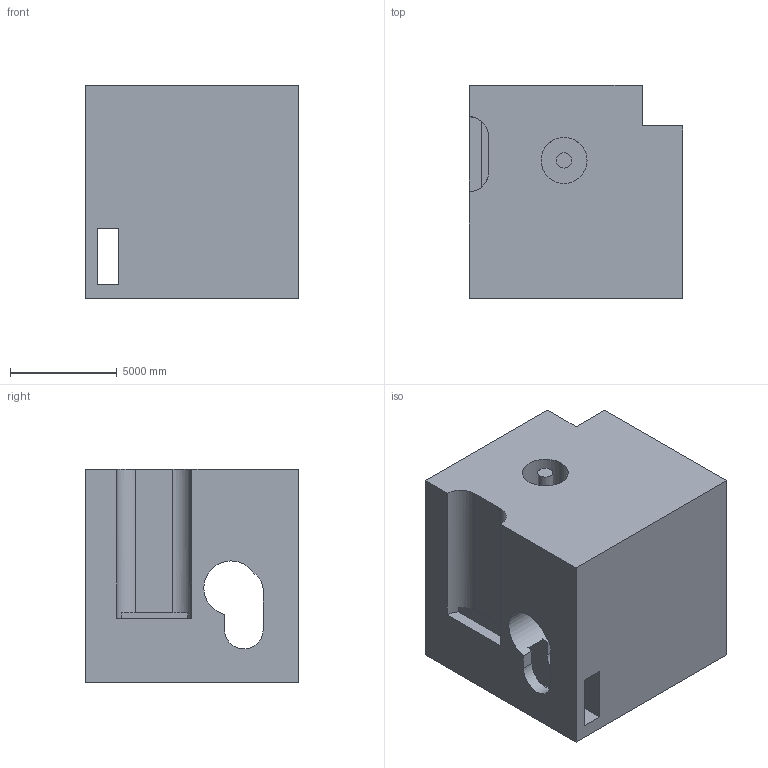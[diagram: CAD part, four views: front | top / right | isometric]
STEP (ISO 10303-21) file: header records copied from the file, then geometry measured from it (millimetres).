
FILE_DESCRIPTION (( 'STEP AP203' ), '1' );
FILE_NAME ('306.STEP', '2022-09-07T12:45:16', ( 'user' ), ( '' ), 'SwSTEP 2.0', 'SolidWorks 2021', '' );
FILE_SCHEMA (( 'CONFIG_CONTROL_DESIGN' ));
Length unit declared in the file: centimetre
Products named in the file (1): 306
Bounding box: 10000 x 10000 x 10000 mm (x, y, z)
Volume: 816462426451 mm3; surface area: 763114170 mm2
Topology: 1 solids, 1 shells, 30 faces, 90 edges, 60 vertices
Faces by surface type: plane 20, cylinder 10
Entity records: 1111 total; most frequent: CARTESIAN_POINT 181, ORIENTED_EDGE 180, DIRECTION 176, EDGE_CURVE 90, VECTOR 66, LINE 66, VERTEX_POINT 60, AXIS2_PLACEMENT_3D 55
